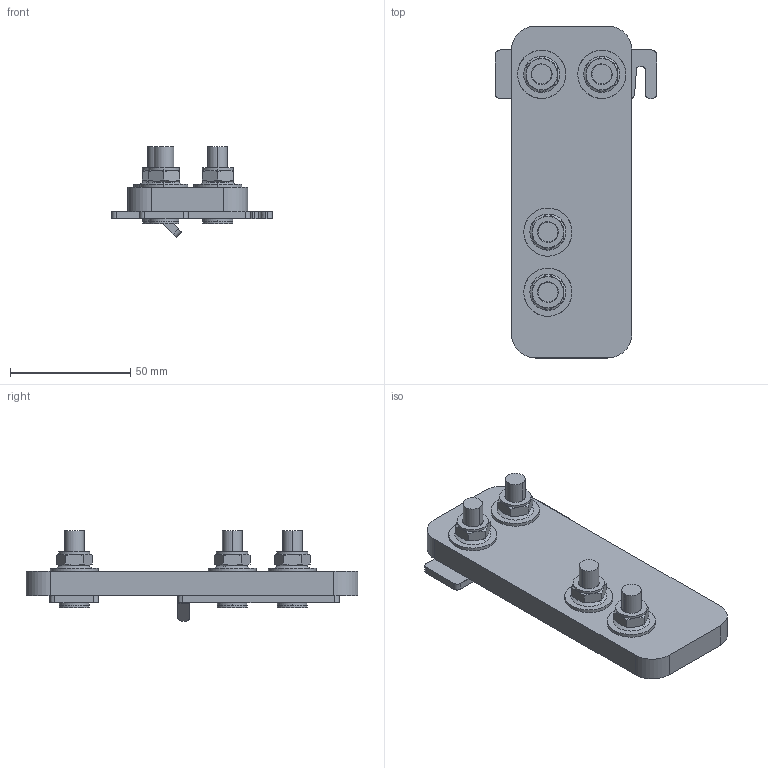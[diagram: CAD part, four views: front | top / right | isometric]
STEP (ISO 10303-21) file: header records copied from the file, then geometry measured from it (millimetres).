
FILE_DESCRIPTION (( 'STEP AP214' ), '1' );
FILE_NAME ('04602.STEP', '2014-04-14T06:22:25', ( '' ), ( '' ), 'SwSTEP 2.0', 'SolidWorks 2014', '' );
FILE_SCHEMA (( 'AUTOMOTIVE_DESIGN' ));
Length unit declared in the file: millimetre
Products named in the file (8): s1a2251201_5_2; 04602; 469740304; s1b3527501_3_2; S1B3527201; s1a9178401_5_2; S1A9178201; S1A9132601
Assembly tree (13 placements, depth 3):
  04602
    s1a2251201_5_2
    s1a9178401_5_2
      S1A9132601
      S1A9178201  x2
    s1b3527501_3_2
      S1B3527201
      S1A9178201  x2
    469740304  x4
Bounding box: 67.05 x 138 x 37.78 mm (x, y, z)
Volume: 83206.7 mm3; surface area: 33022.8 mm2
Topology: 7 solids, 15 shells, 260 faces, 623 edges, 401 vertices
Faces by surface type: bspline 143, plane 89, cylinder 28
Entity records: 8523 total; most frequent: CARTESIAN_POINT 5907, ORIENTED_EDGE 546, DIRECTION 289, EDGE_CURVE 275, VERTEX_POINT 179, B_SPLINE_CURVE_WITH_KNOTS 156, EDGE_LOOP 116, FACE_OUTER_BOUND 110
